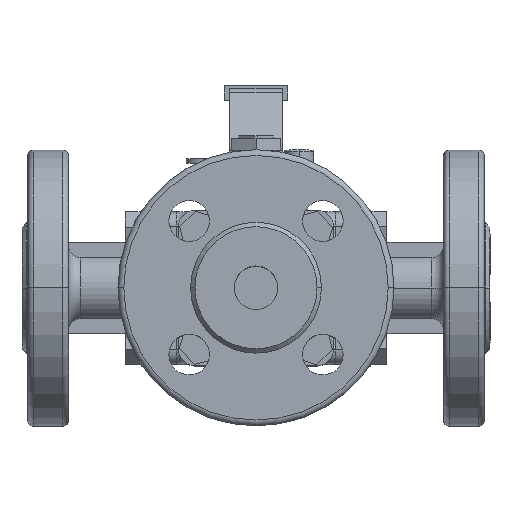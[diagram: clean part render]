
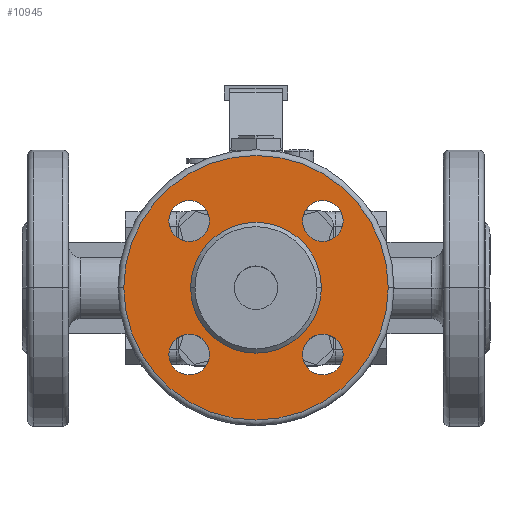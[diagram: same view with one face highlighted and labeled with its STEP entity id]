
A CAD part, top view. The second image highlights one B-rep face of the part: STEP entity #10945.
In plain terms, the highlighted planar face has unit normal (0, 0, 1) as drawn and (1, 0, 0) by its records, which use the part's own axes.
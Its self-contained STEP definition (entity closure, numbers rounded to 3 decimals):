
#150 = CIRCLE ( 'NONE', #153, 45.5 ) ;
#152 = CIRCLE ( 'NONE', #155, 7. ) ;
#153 = AXIS2_PLACEMENT_3D ( 'NONE', #1474, #1475, #1476 ) ;
#154 = CIRCLE ( 'NONE', #157, 7. ) ;
#155 = AXIS2_PLACEMENT_3D ( 'NONE', #1477, #1478, #1479 ) ;
#156 = CIRCLE ( 'NONE', #159, 7. ) ;
#157 = AXIS2_PLACEMENT_3D ( 'NONE', #1480, #1481, #1482 ) ;
#158 = CIRCLE ( 'NONE', #161, 7. ) ;
#159 = AXIS2_PLACEMENT_3D ( 'NONE', #1483, #1484, #1485 ) ;
#160 = CIRCLE ( 'NONE', #163, 22.5 ) ;
#161 = AXIS2_PLACEMENT_3D ( 'NONE', #1486, #1487, #1488 ) ;
#163 = AXIS2_PLACEMENT_3D ( 'NONE', #1489, #1490, #1491 ) ;
#225 = AXIS2_PLACEMENT_3D ( 'NONE', #1753, #1754, #1755 ) ;
#313 = CARTESIAN_POINT ( 'NONE',  ( 45.5, 22.981, 29.981 ) ) ;
#335 = CARTESIAN_POINT ( 'NONE',  ( 45.5, 0., -22.5 ) ) ;
#339 = CARTESIAN_POINT ( 'NONE',  ( 45.5, -22.981, -29.981 ) ) ;
#343 = CARTESIAN_POINT ( 'NONE',  ( 45.5, -22.981, -15.981 ) ) ;
#355 = CARTESIAN_POINT ( 'NONE',  ( 45.5, -22.981, 15.981 ) ) ;
#367 = CARTESIAN_POINT ( 'NONE',  ( 45.5, 0., 45.5 ) ) ;
#376 = CARTESIAN_POINT ( 'NONE',  ( 45.5, 0., -45.5 ) ) ;
#382 = CARTESIAN_POINT ( 'NONE',  ( 45.5, -22.981, 29.981 ) ) ;
#385 = CARTESIAN_POINT ( 'NONE',  ( 45.5, 22.981, -29.981 ) ) ;
#388 = CARTESIAN_POINT ( 'NONE',  ( 45.5, 22.981, -15.981 ) ) ;
#392 = CARTESIAN_POINT ( 'NONE',  ( 45.5, 0., 22.5 ) ) ;
#393 = CARTESIAN_POINT ( 'NONE',  ( 45.5, 22.981, 15.981 ) ) ;
#1474 = CARTESIAN_POINT ( 'NONE',  ( 45.5, 0., 0. ) ) ;
#1475 = DIRECTION ( 'NONE',  ( 1., 0., 0. ) ) ;
#1476 = DIRECTION ( 'NONE',  ( 0., 0., 1. ) ) ;
#1477 = CARTESIAN_POINT ( 'NONE',  ( 45.5, 22.981, 22.981 ) ) ;
#1478 = DIRECTION ( 'NONE',  ( 1., 0., 0. ) ) ;
#1479 = DIRECTION ( 'NONE',  ( 0., 0., -1. ) ) ;
#1480 = CARTESIAN_POINT ( 'NONE',  ( 45.5, -22.981, 22.981 ) ) ;
#1481 = DIRECTION ( 'NONE',  ( 1., 0., 0. ) ) ;
#1482 = DIRECTION ( 'NONE',  ( 0., 0., -1. ) ) ;
#1483 = CARTESIAN_POINT ( 'NONE',  ( 45.5, -22.981, -22.981 ) ) ;
#1484 = DIRECTION ( 'NONE',  ( 1., 0., 0. ) ) ;
#1485 = DIRECTION ( 'NONE',  ( 0., 0., -1. ) ) ;
#1486 = CARTESIAN_POINT ( 'NONE',  ( 45.5, 22.981, -22.981 ) ) ;
#1487 = DIRECTION ( 'NONE',  ( 1., 0., 0. ) ) ;
#1488 = DIRECTION ( 'NONE',  ( 0., 0., -1. ) ) ;
#1489 = CARTESIAN_POINT ( 'NONE',  ( 45.5, 0., 0. ) ) ;
#1490 = DIRECTION ( 'NONE',  ( 1., 0., 0. ) ) ;
#1491 = DIRECTION ( 'NONE',  ( 0., 0., 1. ) ) ;
#1745 = FACE_BOUND ( 'NONE', #8804, .T. ) ;
#1746 = FACE_OUTER_BOUND ( 'NONE', #8807, .T. ) ;
#1747 = FACE_BOUND ( 'NONE', #8808, .T. ) ;
#1748 = FACE_BOUND ( 'NONE', #8810, .T. ) ;
#1749 = PLANE ( 'NONE',  #225 ) ;
#1750 = FACE_BOUND ( 'NONE', #8811, .T. ) ;
#1752 = FACE_BOUND ( 'NONE', #8809, .T. ) ;
#1753 = CARTESIAN_POINT ( 'NONE',  ( 45.5, 0., 0. ) ) ;
#1754 = DIRECTION ( 'NONE',  ( -1., 0., 0. ) ) ;
#1755 = DIRECTION ( 'NONE',  ( 0., 0., 1. ) ) ;
#8487 = CIRCLE ( 'NONE', #8488, 7. ) ;
#8488 = AXIS2_PLACEMENT_3D ( 'NONE', #13936, #13937, #13938 ) ;
#8489 = CIRCLE ( 'NONE', #14199, 7. ) ;
#8495 = CIRCLE ( 'NONE', #9395, 7. ) ;
#8596 = EDGE_CURVE ( 'NONE', #9607, #9598, #9374, .T. ) ;
#8606 = EDGE_CURVE ( 'NONE', #9546, #9624, #8487, .T. ) ;
#8610 = EDGE_CURVE ( 'NONE', #9613, #9586, #8495, .T. ) ;
#8614 = EDGE_CURVE ( 'NONE', #9574, #9570, #8489, .T. ) ;
#8618 = EDGE_CURVE ( 'NONE', #9619, #9616, #9340, .T. ) ;
#8620 = EDGE_CURVE ( 'NONE', #9566, #9623, #9344, .T. ) ;
#8804 = EDGE_LOOP ( 'NONE', ( #10289, #10290 ) ) ;
#8807 = EDGE_LOOP ( 'NONE', ( #10281, #10282 ) ) ;
#8808 = EDGE_LOOP ( 'NONE', ( #10291, #10292 ) ) ;
#8809 = EDGE_LOOP ( 'NONE', ( #10287, #10288 ) ) ;
#8810 = EDGE_LOOP ( 'NONE', ( #10283, #10284 ) ) ;
#8811 = EDGE_LOOP ( 'NONE', ( #10285, #10286 ) ) ;
#9340 = CIRCLE ( 'NONE', #9341, 7. ) ;
#9341 = AXIS2_PLACEMENT_3D ( 'NONE', #13973, #13974, #13975 ) ;
#9344 = CIRCLE ( 'NONE', #9345, 22.5 ) ;
#9345 = AXIS2_PLACEMENT_3D ( 'NONE', #13979, #13980, #13981 ) ;
#9374 = CIRCLE ( 'NONE', #9375, 45.5 ) ;
#9375 = AXIS2_PLACEMENT_3D ( 'NONE', #13904, #13905, #13906 ) ;
#9395 = AXIS2_PLACEMENT_3D ( 'NONE', #13948, #13949, #13950 ) ;
#9546 = VERTEX_POINT ( 'NONE', #313 ) ;
#9566 = VERTEX_POINT ( 'NONE', #335 ) ;
#9570 = VERTEX_POINT ( 'NONE', #339 ) ;
#9574 = VERTEX_POINT ( 'NONE', #343 ) ;
#9586 = VERTEX_POINT ( 'NONE', #355 ) ;
#9598 = VERTEX_POINT ( 'NONE', #367 ) ;
#9607 = VERTEX_POINT ( 'NONE', #376 ) ;
#9613 = VERTEX_POINT ( 'NONE', #382 ) ;
#9616 = VERTEX_POINT ( 'NONE', #385 ) ;
#9619 = VERTEX_POINT ( 'NONE', #388 ) ;
#9623 = VERTEX_POINT ( 'NONE', #392 ) ;
#9624 = VERTEX_POINT ( 'NONE', #393 ) ;
#10281 = ORIENTED_EDGE ( 'NONE', *, *, #10888, .T. ) ;
#10282 = ORIENTED_EDGE ( 'NONE', *, *, #8596, .T. ) ;
#10283 = ORIENTED_EDGE ( 'NONE', *, *, #10889, .F. ) ;
#10284 = ORIENTED_EDGE ( 'NONE', *, *, #8606, .F. ) ;
#10285 = ORIENTED_EDGE ( 'NONE', *, *, #10890, .F. ) ;
#10286 = ORIENTED_EDGE ( 'NONE', *, *, #8610, .F. ) ;
#10287 = ORIENTED_EDGE ( 'NONE', *, *, #10891, .F. ) ;
#10288 = ORIENTED_EDGE ( 'NONE', *, *, #8614, .F. ) ;
#10289 = ORIENTED_EDGE ( 'NONE', *, *, #10892, .F. ) ;
#10290 = ORIENTED_EDGE ( 'NONE', *, *, #8618, .F. ) ;
#10291 = ORIENTED_EDGE ( 'NONE', *, *, #8620, .F. ) ;
#10292 = ORIENTED_EDGE ( 'NONE', *, *, #10893, .F. ) ;
#10888 = EDGE_CURVE ( 'NONE', #9598, #9607, #150, .T. ) ;
#10889 = EDGE_CURVE ( 'NONE', #9624, #9546, #152, .T. ) ;
#10890 = EDGE_CURVE ( 'NONE', #9586, #9613, #154, .T. ) ;
#10891 = EDGE_CURVE ( 'NONE', #9570, #9574, #156, .T. ) ;
#10892 = EDGE_CURVE ( 'NONE', #9616, #9619, #158, .T. ) ;
#10893 = EDGE_CURVE ( 'NONE', #9623, #9566, #160, .T. ) ;
#10945 = ADVANCED_FACE ( 'NONE', ( #1746, #1748, #1750, #1752, #1745, #1747 ), #1749, .F. ) ;
#13904 = CARTESIAN_POINT ( 'NONE',  ( 45.5, 0., 0. ) ) ;
#13905 = DIRECTION ( 'NONE',  ( 1., 0., 0. ) ) ;
#13906 = DIRECTION ( 'NONE',  ( 0., 0., 1. ) ) ;
#13936 = CARTESIAN_POINT ( 'NONE',  ( 45.5, 22.981, 22.981 ) ) ;
#13937 = DIRECTION ( 'NONE',  ( 1., 0., 0. ) ) ;
#13938 = DIRECTION ( 'NONE',  ( 0., 0., -1. ) ) ;
#13948 = CARTESIAN_POINT ( 'NONE',  ( 45.5, -22.981, 22.981 ) ) ;
#13949 = DIRECTION ( 'NONE',  ( 1., 0., 0. ) ) ;
#13950 = DIRECTION ( 'NONE',  ( 0., 0., -1. ) ) ;
#13960 = CARTESIAN_POINT ( 'NONE',  ( 45.5, -22.981, -22.981 ) ) ;
#13961 = DIRECTION ( 'NONE',  ( 1., 0., 0. ) ) ;
#13962 = DIRECTION ( 'NONE',  ( 0., 0., -1. ) ) ;
#13973 = CARTESIAN_POINT ( 'NONE',  ( 45.5, 22.981, -22.981 ) ) ;
#13974 = DIRECTION ( 'NONE',  ( 1., 0., 0. ) ) ;
#13975 = DIRECTION ( 'NONE',  ( 0., 0., -1. ) ) ;
#13979 = CARTESIAN_POINT ( 'NONE',  ( 45.5, 0., 0. ) ) ;
#13980 = DIRECTION ( 'NONE',  ( 1., 0., 0. ) ) ;
#13981 = DIRECTION ( 'NONE',  ( 0., 0., 1. ) ) ;
#14199 = AXIS2_PLACEMENT_3D ( 'NONE', #13960, #13961, #13962 ) ;
